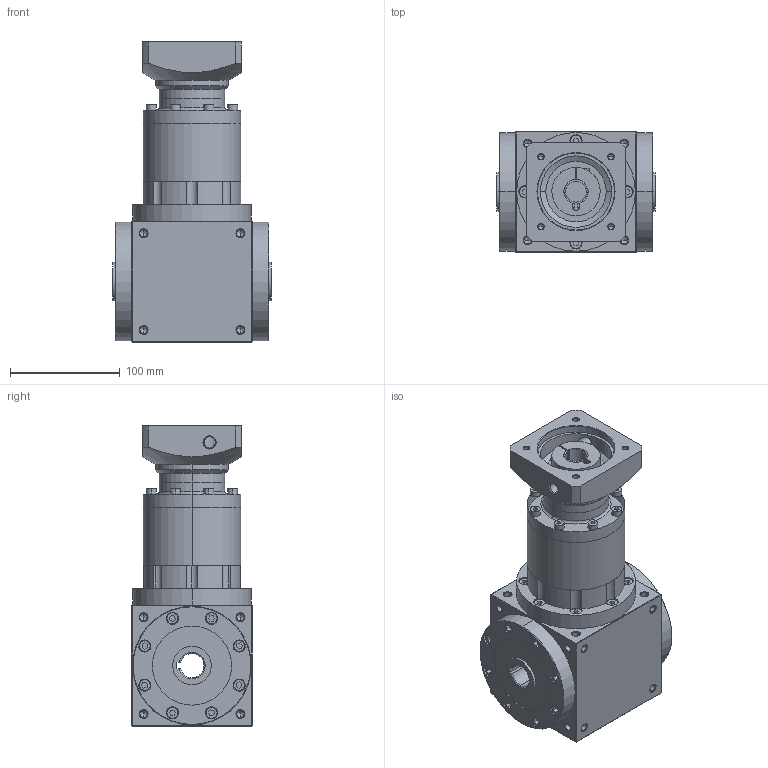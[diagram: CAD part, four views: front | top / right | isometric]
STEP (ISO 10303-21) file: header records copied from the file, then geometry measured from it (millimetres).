
FILE_DESCRIPTION (( 'STEP AP203' ), '1' );
FILE_NAME ('AT120-FH-L4-19-70-90M6.STEP', '2025-08-15T03:39:24', ( 'Windows User' ), ( 'P R C' ), 'SwSTEP 2.0', 'SolidWorks 2016', '' );
FILE_SCHEMA (( 'CONFIG_CONTROL_DESIGN' ));
Length unit declared in the file: millimetre
Products named in the file (7): AT120-FH-L4-19-70-90M6; AT120-蛌褒眊极-謂怀堤; AT120-怀堤楊擘-蠶講; AT120双级齿圈; AT120-双级齿圈; AT120-输入法兰-E-70-M6-90; 输入胀套-22
Assembly tree (6 placements, depth 2):
  AT120-FH-L4-19-70-90M6
    AT120-蛌褒眊极-謂怀堤
    AT120-怀堤楊擘-蠶講
    AT120双级齿圈
    AT120-双级齿圈
    AT120-输入法兰-E-70-M6-90
    输入胀套-22
Bounding box: 144 x 110 x 273 mm (x, y, z)
Volume: 1896640.4 mm3; surface area: 290608.8 mm2
Topology: 6 solids, 18 shells, 1589 faces, 4113 edges, 2620 vertices
Faces by surface type: plane 839, cylinder 368, cone 230, bspline 152
Entity records: 55325 total; most frequent: CARTESIAN_POINT 17155, ORIENTED_EDGE 8046, DIRECTION 7211, EDGE_CURVE 4023, LINE 2619, VERTEX_POINT 2619, VECTOR 2619, AXIS2_PLACEMENT_3D 2296
